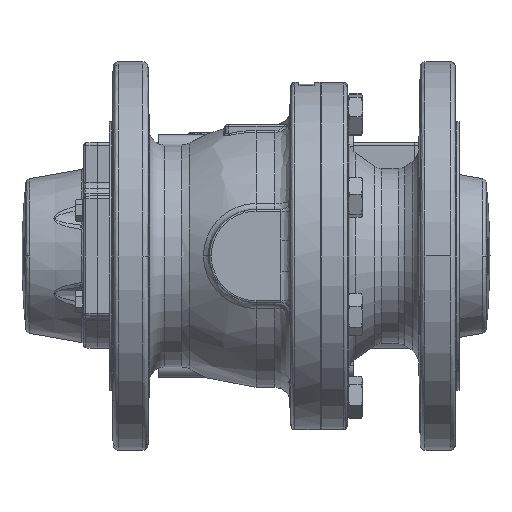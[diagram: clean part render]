
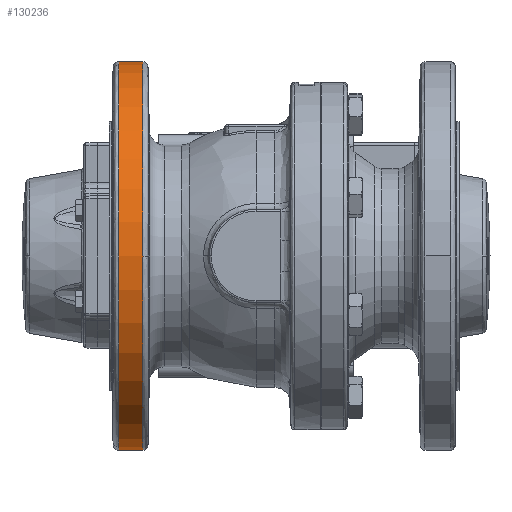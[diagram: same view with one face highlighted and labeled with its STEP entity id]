
A CAD part, front view. The second image highlights one B-rep face of the part: STEP entity #130236.
In plain terms, the highlighted cylindrical face has radius 99.995 mm (diameter 199.99 mm), a partial arc.
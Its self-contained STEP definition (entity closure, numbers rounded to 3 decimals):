
#11413 = FACE_OUTER_BOUND ( 'NONE', #145511, .T. ) ;
#12226 = VERTEX_POINT ( 'NONE', #28784 ) ;
#19095 = AXIS2_PLACEMENT_3D ( 'NONE', #50545, #148699, #64618 ) ;
#25337 = VERTEX_POINT ( 'NONE', #116919 ) ;
#26155 = DIRECTION ( 'NONE',  ( -1., 0., 0. ) ) ;
#28784 = CARTESIAN_POINT ( 'NONE',  ( -58.275, 0., 99.995 ) ) ;
#31444 = CARTESIAN_POINT ( 'NONE',  ( -70.699, 0., -99.995 ) ) ;
#32029 = AXIS2_PLACEMENT_3D ( 'NONE', #170805, #100278, #86752 ) ;
#43589 = ORIENTED_EDGE ( 'NONE', *, *, #98781, .T. ) ;
#45000 = ORIENTED_EDGE ( 'NONE', *, *, #111911, .F. ) ;
#46466 = DIRECTION ( 'NONE',  ( 1., 0., 0. ) ) ;
#50545 = CARTESIAN_POINT ( 'NONE',  ( -70.699, 0., 0. ) ) ;
#50926 = CYLINDRICAL_SURFACE ( 'NONE', #32029, 99.995 ) ;
#55639 = VECTOR ( 'NONE', #83491, 1000. ) ;
#60323 = EDGE_CURVE ( 'NONE', #178513, #126257, #163141, .T. ) ;
#64618 = DIRECTION ( 'NONE',  ( 0., 0., 1. ) ) ;
#67805 = DIRECTION ( 'NONE',  ( 1., 0., 0. ) ) ;
#77124 = CARTESIAN_POINT ( 'NONE',  ( -58.275, -99.995, 0. ) ) ;
#77414 = AXIS2_PLACEMENT_3D ( 'NONE', #130443, #46466, #144601 ) ;
#78167 = ORIENTED_EDGE ( 'NONE', *, *, #140257, .F. ) ;
#83491 = DIRECTION ( 'NONE',  ( -1., 0., 0. ) ) ;
#86752 = DIRECTION ( 'NONE',  ( 0., 0., 1. ) ) ;
#98781 = EDGE_CURVE ( 'NONE', #12226, #25337, #113667, .T. ) ;
#98874 = CIRCLE ( 'NONE', #77414, 99.995 ) ;
#100278 = DIRECTION ( 'NONE',  ( -1., 0., 0. ) ) ;
#105177 = CARTESIAN_POINT ( 'NONE',  ( -58.275, 0., -99.995 ) ) ;
#110114 = CARTESIAN_POINT ( 'NONE',  ( -58.275, 0., 99.995 ) ) ;
#111911 = EDGE_CURVE ( 'NONE', #12226, #146048, #98874, .T. ) ;
#113667 = LINE ( 'NONE', #110114, #164148 ) ;
#116919 = CARTESIAN_POINT ( 'NONE',  ( -70.699, 0., 99.995 ) ) ;
#124306 = EDGE_CURVE ( 'NONE', #146048, #178513, #159372, .T. ) ;
#126257 = VERTEX_POINT ( 'NONE', #31444 ) ;
#130236 = ADVANCED_FACE ( 'NONE', ( #11413 ), #50926, .T. ) ;
#130443 = CARTESIAN_POINT ( 'NONE',  ( -58.275, 0., 0. ) ) ;
#140257 = EDGE_CURVE ( 'NONE', #126257, #25337, #167408, .T. ) ;
#144601 = DIRECTION ( 'NONE',  ( 0., 0., -1. ) ) ;
#145511 = EDGE_LOOP ( 'NONE', ( #182234, #150894, #45000, #43589, #78167 ) ) ;
#146048 = VERTEX_POINT ( 'NONE', #77124 ) ;
#148699 = DIRECTION ( 'NONE',  ( -1., 0., 0. ) ) ;
#150894 = ORIENTED_EDGE ( 'NONE', *, *, #124306, .F. ) ;
#151823 = CARTESIAN_POINT ( 'NONE',  ( -58.275, 0., 0. ) ) ;
#159372 = CIRCLE ( 'NONE', #174682, 99.995 ) ;
#163141 = LINE ( 'NONE', #167522, #55639 ) ;
#164148 = VECTOR ( 'NONE', #26155, 1000. ) ;
#165845 = DIRECTION ( 'NONE',  ( 0., 0., -1. ) ) ;
#167408 = CIRCLE ( 'NONE', #19095, 99.995 ) ;
#167522 = CARTESIAN_POINT ( 'NONE',  ( -58.275, 0., -99.995 ) ) ;
#170805 = CARTESIAN_POINT ( 'NONE',  ( -58.275, 0., 0. ) ) ;
#174682 = AXIS2_PLACEMENT_3D ( 'NONE', #151823, #67805, #165845 ) ;
#178513 = VERTEX_POINT ( 'NONE', #105177 ) ;
#182234 = ORIENTED_EDGE ( 'NONE', *, *, #60323, .F. ) ;
